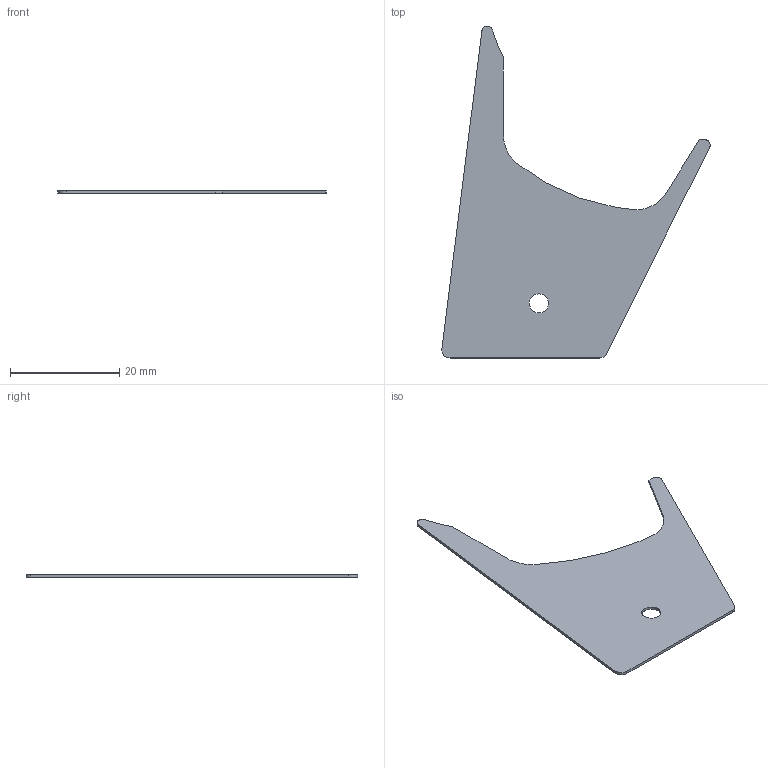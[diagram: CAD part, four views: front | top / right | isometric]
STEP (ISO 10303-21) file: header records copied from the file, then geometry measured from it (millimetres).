
FILE_DESCRIPTION(/* description */ (''),/* implementation_level */ '2;1');
FILE_NAME(/* name */ 'GRIP-1~2',/* time_stamp */ '2015-10-29T16:59:08+09:00',/* author */ (''),/* organization */ (''),/* preprocessor_version */ 'ST-DEVELOPER v15',/* originating_system */ '',/* authorisation */ '');
FILE_SCHEMA (('CONFIG_CONTROL_DESIGN'));
Length unit declared in the file: millimetre
Products named in the file (1): Document
Bounding box: 49.18 x 60.85 x 0.5 mm (x, y, z)
Volume: 633.6 mm3; surface area: 2636 mm2
Topology: 1 solids, 1 shells, 16 faces, 42 edges, 28 vertices
Faces by surface type: bspline 14, plane 2
Entity records: 572 total; most frequent: CARTESIAN_POINT 268, ORIENTED_EDGE 84, EDGE_CURVE 42, VERTEX_POINT 28, EDGE_LOOP 18, ADVANCED_FACE 16, FACE_OUTER_BOUND 16, ORGANIZATION 7
